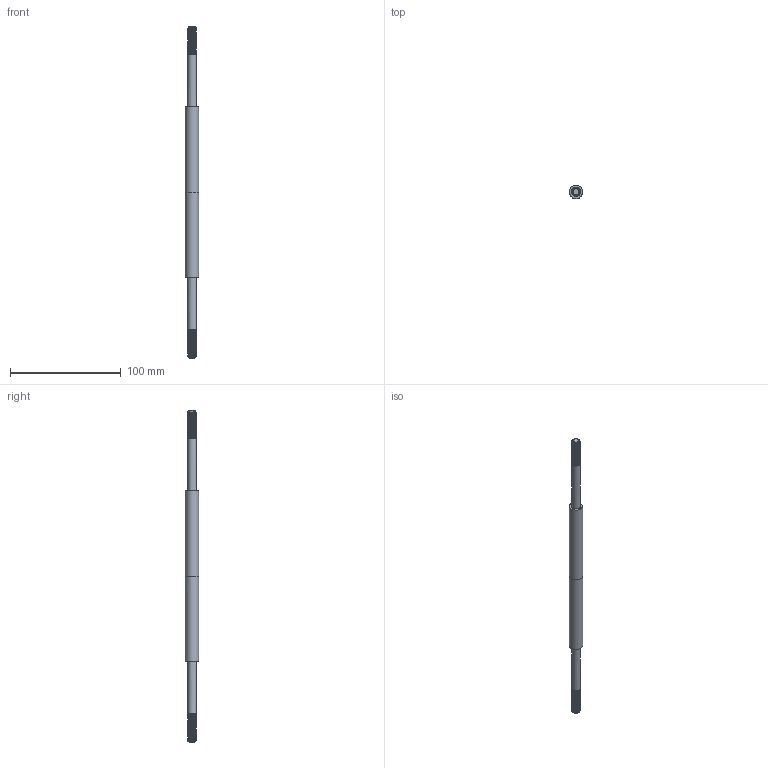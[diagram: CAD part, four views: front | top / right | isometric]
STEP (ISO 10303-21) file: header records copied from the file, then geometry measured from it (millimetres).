
FILE_DESCRIPTION ((), '1');
FILE_NAME ('H:\Energy Science\CAD Projects\Generator Research\Tesla_v1\Fittings\M8 Fittings\M8 Support Rod\M8 Support Rod.stp', '2015-10-15T23:12:11', ('Unknown'), ('Unknown'), 'HarmonyWare STEP v1.7.11', 'HarmonyWare Translators', '');
FILE_SCHEMA (('CONFIG_CONTROL_DESIGN'));
Products named in the file (1): product-name
Bounding box: 11.99 x 12 x 300 mm (x, y, z)
Volume: 24317.1 mm3; surface area: 10608.4 mm2
Topology: 1 solids, 1 shells, 92 faces, 263 edges, 171 vertices
Faces by surface type: bspline 92
Entity records: 55264 total; most frequent: CARTESIAN_POINT 53715, ORIENTED_EDGE 510, EDGE_CURVE 255, B_SPLINE_CURVE_WITH_KNOTS 193, VERTEX_POINT 167, EDGE_LOOP 94, FACE_OUTER_BOUND 92, ADVANCED_FACE 92
